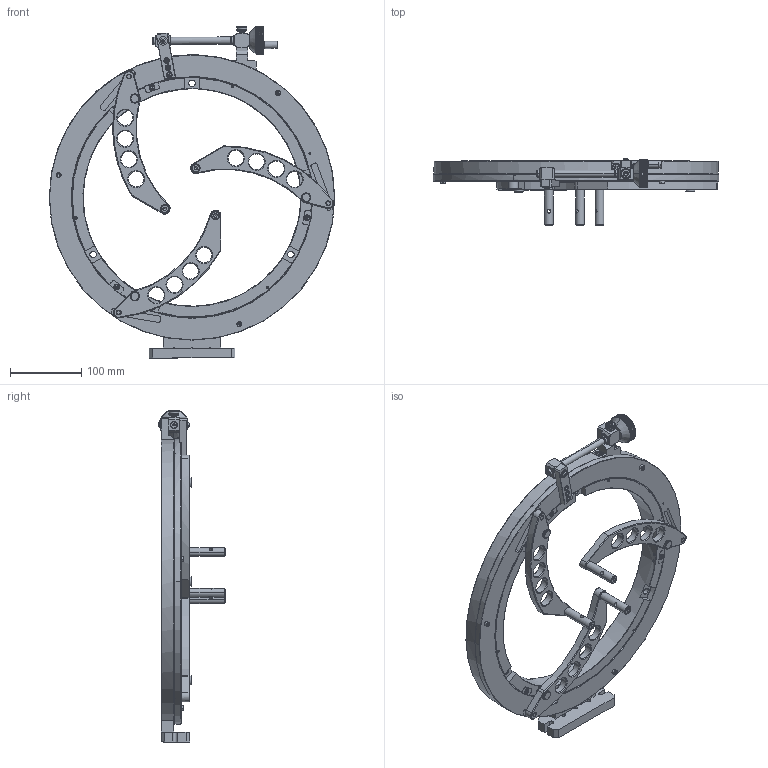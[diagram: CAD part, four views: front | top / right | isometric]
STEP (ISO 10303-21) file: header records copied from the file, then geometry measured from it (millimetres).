
FILE_DESCRIPTION (( 'STEP AP203' ), '1' );
FILE_NAME ('4SCML-12.STEP', '2010-09-03T11:44:48', ( 'ramunas' ), ( '' ), 'SwSTEP 2.0', 'SolidWorks 2003240', '' );
FILE_SCHEMA (( 'CONFIG_CONTROL_DESIGN' ));
Length unit declared in the file: millimetre
Products named in the file (1): 4SCML-12
Bounding box: 400 x 93.6 x 465.19 mm (x, y, z)
Volume: 1716354.2 mm3; surface area: 334248.4 mm2
Topology: 1 solids, 21 shells, 2272 faces, 6274 edges, 4075 vertices
Faces by surface type: plane 1232, cylinder 714, cone 276, bspline 50
Entity records: 75614 total; most frequent: CARTESIAN_POINT 20111, ORIENTED_EDGE 12402, DIRECTION 10585, EDGE_CURVE 6201, VERTEX_POINT 4075, AXIS2_PLACEMENT_3D 4026, VECTOR 2533, LINE 2533
